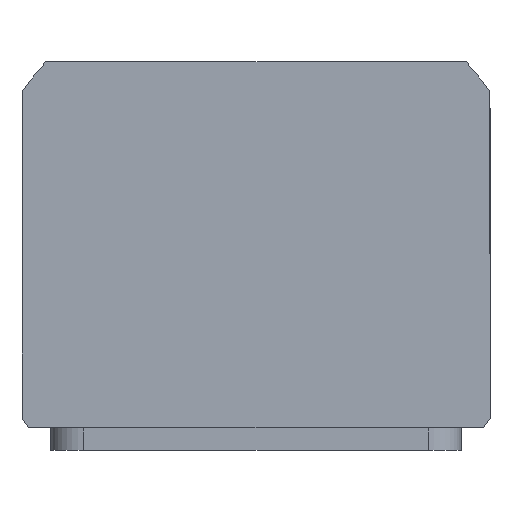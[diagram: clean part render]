
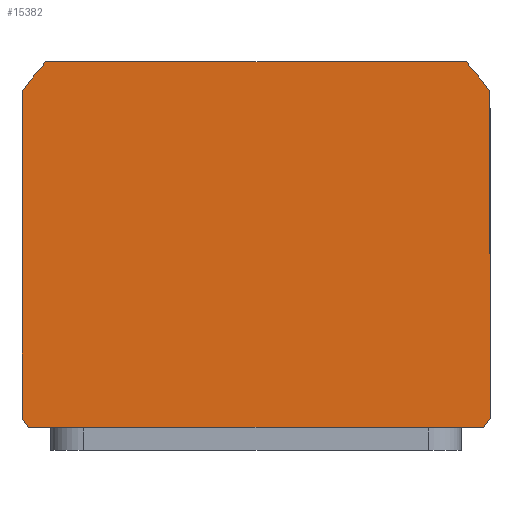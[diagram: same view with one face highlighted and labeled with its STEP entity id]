
A CAD part, top view. The second image highlights one B-rep face of the part: STEP entity #15382.
In plain terms, the highlighted planar face has unit normal (0, 0, 1) as drawn and (0, 0, -1) by its records, which use the part's own axes.
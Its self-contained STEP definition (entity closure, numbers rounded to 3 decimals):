
#43 = CIRCLE ( 'NONE', #18107, 69.5 ) ;
#149 = ORIENTED_EDGE ( 'NONE', *, *, #8760, .F. ) ;
#692 = AXIS2_PLACEMENT_3D ( 'NONE', #5500, #15347, #6923 ) ;
#801 = EDGE_CURVE ( 'NONE', #10515, #9929, #5497, .T. ) ;
#824 = CIRCLE ( 'NONE', #15994, 69.5 ) ;
#920 = CARTESIAN_POINT ( 'NONE',  ( -55.382, 44.5, 0. ) ) ;
#1134 = EDGE_CURVE ( 'NONE', #2987, #18048, #824, .T. ) ;
#1793 = AXIS2_PLACEMENT_3D ( 'NONE', #6718, #5289, #5120 ) ;
#2987 = VERTEX_POINT ( 'NONE', #920 ) ;
#3071 = ORIENTED_EDGE ( 'NONE', *, *, #1134, .F. ) ;
#3133 = LINE ( 'NONE', #4408, #10207 ) ;
#3534 = ORIENTED_EDGE ( 'NONE', *, *, #4020, .F. ) ;
#3954 = ORIENTED_EDGE ( 'NONE', *, *, #17351, .F. ) ;
#4020 = EDGE_CURVE ( 'NONE', #15588, #7553, #4511, .T. ) ;
#4084 = PLANE ( 'NONE',  #692 ) ;
#4304 = CARTESIAN_POINT ( 'NONE',  ( -57., -44.5, 0. ) ) ;
#4408 = CARTESIAN_POINT ( 'NONE',  ( -57., 44.5, 0. ) ) ;
#4470 = VECTOR ( 'NONE', #5731, 1000. ) ;
#4511 = CIRCLE ( 'NONE', #11769, 69.5 ) ;
#4594 = CARTESIAN_POINT ( 'NONE',  ( -57., 44.5, 0. ) ) ;
#5120 = DIRECTION ( 'NONE',  ( 1., 0., 0. ) ) ;
#5202 = VERTEX_POINT ( 'NONE', #18145 ) ;
#5244 = CARTESIAN_POINT ( 'NONE',  ( 57., -37.255, 0. ) ) ;
#5289 = DIRECTION ( 'NONE',  ( 0., 0., 1. ) ) ;
#5497 = CIRCLE ( 'NONE', #1793, 69.5 ) ;
#5500 = CARTESIAN_POINT ( 'NONE',  ( 0., 0., 0. ) ) ;
#5658 = CARTESIAN_POINT ( 'NONE',  ( 57., 44.5, 0. ) ) ;
#5731 = DIRECTION ( 'NONE',  ( 1., 0., 0. ) ) ;
#5834 = DIRECTION ( 'NONE',  ( -1., 0., 0. ) ) ;
#6185 = CARTESIAN_POINT ( 'NONE',  ( 0., 2.51, 0. ) ) ;
#6718 = CARTESIAN_POINT ( 'NONE',  ( 0., 2.51, 0. ) ) ;
#6923 = DIRECTION ( 'NONE',  ( 1., 0., 0. ) ) ;
#7100 = VECTOR ( 'NONE', #7438, 1000. ) ;
#7318 = DIRECTION ( 'NONE',  ( 0., 0., 1. ) ) ;
#7438 = DIRECTION ( 'NONE',  ( 0., -1., 0. ) ) ;
#7553 = VERTEX_POINT ( 'NONE', #16051 ) ;
#7603 = DIRECTION ( 'NONE',  ( 1., 0., 0. ) ) ;
#7752 = LINE ( 'NONE', #5658, #8597 ) ;
#8180 = EDGE_CURVE ( 'NONE', #7553, #5202, #15702, .T. ) ;
#8597 = VECTOR ( 'NONE', #14092, 1000. ) ;
#8760 = EDGE_CURVE ( 'NONE', #5202, #16235, #43, .T. ) ;
#9518 = FACE_OUTER_BOUND ( 'NONE', #9776, .T. ) ;
#9776 = EDGE_LOOP ( 'NONE', ( #11460, #3954, #149, #14774, #3534, #18032, #3071, #13871 ) ) ;
#9929 = VERTEX_POINT ( 'NONE', #15205 ) ;
#10207 = VECTOR ( 'NONE', #5834, 1000. ) ;
#10515 = VERTEX_POINT ( 'NONE', #14605 ) ;
#11460 = ORIENTED_EDGE ( 'NONE', *, *, #801, .F. ) ;
#11762 = LINE ( 'NONE', #4594, #7100 ) ;
#11769 = AXIS2_PLACEMENT_3D ( 'NONE', #6185, #16024, #7603 ) ;
#12763 = CARTESIAN_POINT ( 'NONE',  ( -57., -37.255, 0. ) ) ;
#13871 = ORIENTED_EDGE ( 'NONE', *, *, #14813, .F. ) ;
#13979 = EDGE_CURVE ( 'NONE', #18048, #15588, #11762, .T. ) ;
#14092 = DIRECTION ( 'NONE',  ( 0., 1., 0. ) ) ;
#14396 = CARTESIAN_POINT ( 'NONE',  ( -57., 42.275, 0. ) ) ;
#14605 = CARTESIAN_POINT ( 'NONE',  ( 57., 42.275, 0. ) ) ;
#14774 = ORIENTED_EDGE ( 'NONE', *, *, #8180, .F. ) ;
#14813 = EDGE_CURVE ( 'NONE', #9929, #2987, #3133, .T. ) ;
#15205 = CARTESIAN_POINT ( 'NONE',  ( 55.382, 44.5, 0. ) ) ;
#15347 = DIRECTION ( 'NONE',  ( 0., 0., 1. ) ) ;
#15382 = ADVANCED_FACE ( 'NONE', ( #9518 ), #4084, .F. ) ;
#15588 = VERTEX_POINT ( 'NONE', #12763 ) ;
#15622 = CARTESIAN_POINT ( 'NONE',  ( 0., 2.51, 0. ) ) ;
#15702 = LINE ( 'NONE', #4304, #4470 ) ;
#15740 = CARTESIAN_POINT ( 'NONE',  ( 0., 2.51, 0. ) ) ;
#15994 = AXIS2_PLACEMENT_3D ( 'NONE', #15622, #16335, #16387 ) ;
#16024 = DIRECTION ( 'NONE',  ( 0., 0., 1. ) ) ;
#16051 = CARTESIAN_POINT ( 'NONE',  ( -51.189, -44.5, 0. ) ) ;
#16235 = VERTEX_POINT ( 'NONE', #5244 ) ;
#16335 = DIRECTION ( 'NONE',  ( 0., 0., 1. ) ) ;
#16387 = DIRECTION ( 'NONE',  ( 1., 0., 0. ) ) ;
#17139 = DIRECTION ( 'NONE',  ( 1., 0., 0. ) ) ;
#17351 = EDGE_CURVE ( 'NONE', #16235, #10515, #7752, .T. ) ;
#18032 = ORIENTED_EDGE ( 'NONE', *, *, #13979, .F. ) ;
#18048 = VERTEX_POINT ( 'NONE', #14396 ) ;
#18107 = AXIS2_PLACEMENT_3D ( 'NONE', #15740, #7318, #17139 ) ;
#18145 = CARTESIAN_POINT ( 'NONE',  ( 51.189, -44.5, 0. ) ) ;
